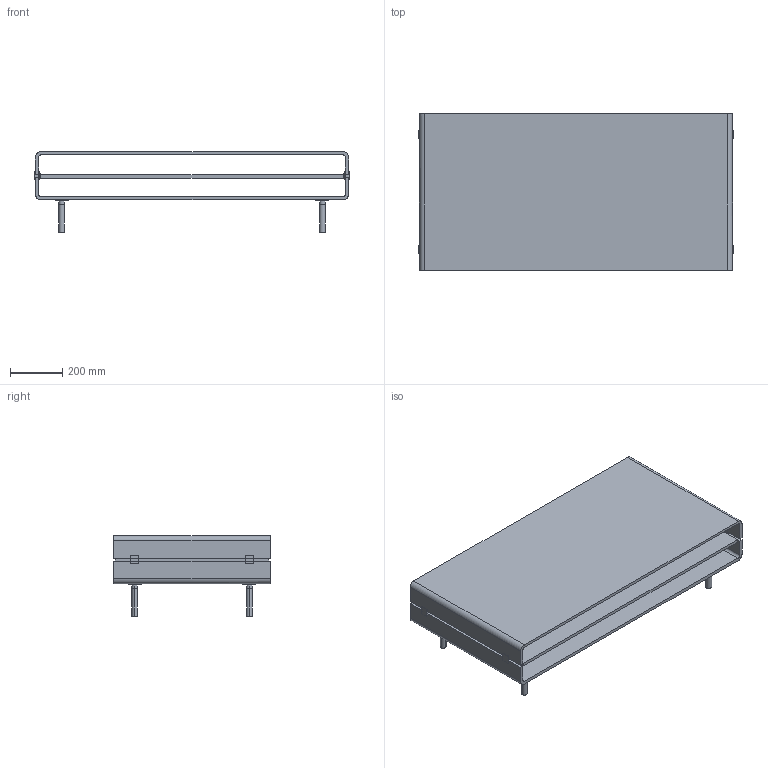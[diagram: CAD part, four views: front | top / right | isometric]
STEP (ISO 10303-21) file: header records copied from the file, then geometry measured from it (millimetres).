
FILE_DESCRIPTION(/* description */ (''),/* implementation_level */ '2;1');
FILE_NAME(/* name */ '203.320 - C&C 120x60 piedini+ripiano',/* time_stamp */ '2010-11-04T09:52:04+01:00',/* author */ (''),/* organization */ (''),/* preprocessor_version */ 'ST-DEVELOPER v10',/* originating_system */ '',/* authorisation */ '');
FILE_SCHEMA (('CONFIG_CONTROL_DESIGN'));
Length unit declared in the file: centimetre
Products named in the file (1): 1
Bounding box: 1208 x 600 x 309 mm (x, y, z)
Volume: 27775851.3 mm3; surface area: 4796982.8 mm2
Topology: 19 solids, 19 shells, 206 faces, 488 edges, 324 vertices
Faces by surface type: plane 134, bspline 72
Entity records: 5844 total; most frequent: CARTESIAN_POINT 2544, ORIENTED_EDGE 976, EDGE_CURVE 488, B_SPLINE_CURVE_WITH_KNOTS 348, VERTEX_POINT 324, EDGE_LOOP 210, ADVANCED_FACE 206, FACE_OUTER_BOUND 206
